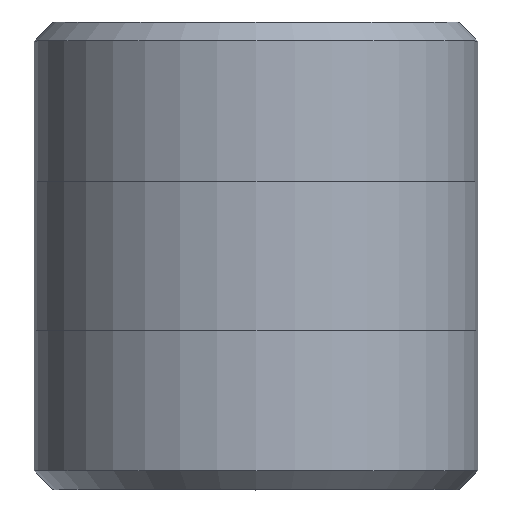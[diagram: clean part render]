
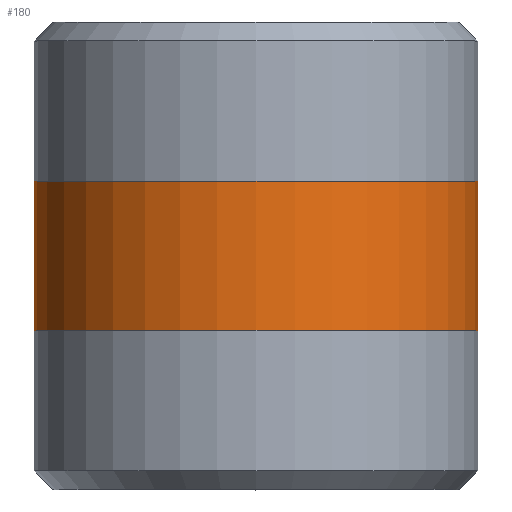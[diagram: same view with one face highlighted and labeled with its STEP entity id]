
A CAD part, top view. The second image highlights one B-rep face of the part: STEP entity #180.
In plain terms, the highlighted cylindrical face has radius 24.13 mm (diameter 48.26 mm), a full revolution.
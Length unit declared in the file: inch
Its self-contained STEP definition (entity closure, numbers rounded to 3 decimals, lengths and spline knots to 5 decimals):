
#25=CYLINDRICAL_SURFACE('',#220,0.95);
#34=FACE_OUTER_BOUND('',#47,.T.);
#47=EDGE_LOOP('',(#155,#156,#157,#158,#159,#160));
#55=LINE('',#338,#61);
#61=VECTOR('',#283,0.95);
#77=CIRCLE('',#218,0.95);
#78=CIRCLE('',#219,0.95);
#79=CIRCLE('',#221,0.95);
#80=CIRCLE('',#222,0.95);
#95=VERTEX_POINT('',#329);
#96=VERTEX_POINT('',#330);
#97=VERTEX_POINT('',#334);
#98=VERTEX_POINT('',#335);
#117=EDGE_CURVE('',#95,#96,#77,.T.);
#118=EDGE_CURVE('',#96,#95,#78,.T.);
#119=EDGE_CURVE('',#97,#98,#79,.T.);
#120=EDGE_CURVE('',#98,#97,#80,.T.);
#121=EDGE_CURVE('',#98,#96,#55,.T.);
#155=ORIENTED_EDGE('',*,*,#119,.F.);
#156=ORIENTED_EDGE('',*,*,#120,.F.);
#157=ORIENTED_EDGE('',*,*,#121,.T.);
#158=ORIENTED_EDGE('',*,*,#118,.T.);
#159=ORIENTED_EDGE('',*,*,#117,.T.);
#160=ORIENTED_EDGE('',*,*,#121,.F.);
#180=ADVANCED_FACE('',(#34),#25,.T.);
#218=AXIS2_PLACEMENT_3D('',#331,#273,#274);
#219=AXIS2_PLACEMENT_3D('',#332,#275,#276);
#220=AXIS2_PLACEMENT_3D('',#333,#277,#278);
#221=AXIS2_PLACEMENT_3D('',#336,#279,#280);
#222=AXIS2_PLACEMENT_3D('',#337,#281,#282);
#273=DIRECTION('center_axis',(0.,-1.,0.));
#274=DIRECTION('ref_axis',(1.,0.,0.));
#275=DIRECTION('center_axis',(0.,-1.,0.));
#276=DIRECTION('ref_axis',(1.,0.,0.));
#277=DIRECTION('center_axis',(0.,-1.,0.));
#278=DIRECTION('ref_axis',(0.,0.,-1.));
#279=DIRECTION('center_axis',(0.,-1.,0.));
#280=DIRECTION('ref_axis',(1.,0.,0.));
#281=DIRECTION('center_axis',(0.,-1.,0.));
#282=DIRECTION('ref_axis',(1.,0.,0.));
#283=DIRECTION('',(0.,1.,0.));
#329=CARTESIAN_POINT('',(0.,1.319,-0.95));
#330=CARTESIAN_POINT('',(0.,1.319,0.95));
#331=CARTESIAN_POINT('Origin',(0.,1.319,0.));
#332=CARTESIAN_POINT('Origin',(0.,1.319,0.));
#333=CARTESIAN_POINT('Origin',(0.,1.,0.));
#334=CARTESIAN_POINT('',(0.,0.681,-0.95));
#335=CARTESIAN_POINT('',(0.,0.681,0.95));
#336=CARTESIAN_POINT('Origin',(0.,0.681,0.));
#337=CARTESIAN_POINT('Origin',(0.,0.681,0.));
#338=CARTESIAN_POINT('',(0.,1.,0.95));
